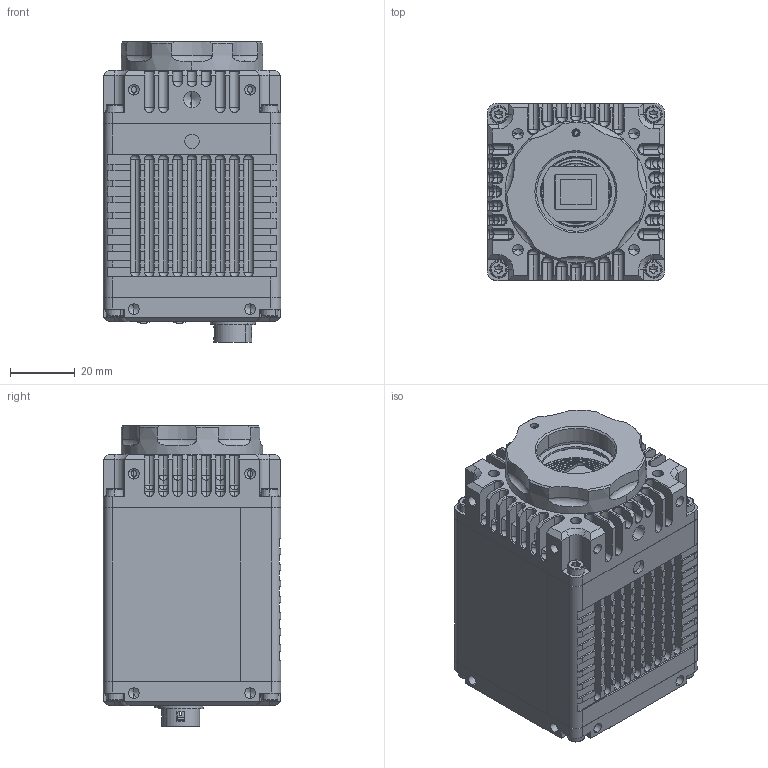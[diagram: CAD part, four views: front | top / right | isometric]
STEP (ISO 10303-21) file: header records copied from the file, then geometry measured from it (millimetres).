
FILE_DESCRIPTION (( 'STEP AP214' ), '1' );
FILE_NAME ('4068030_Goldeye G-033 SWIR TEC1.STEP', '2025-03-14T09:24:45', ( '' ), ( '' ), 'SwSTEP 2.0', 'SolidWorks 2023', '' );
FILE_SCHEMA (( 'AUTOMOTIVE_DESIGN' ));
Length unit declared in the file: millimetre
Products named in the file (1): 4068030_Goldeye G-033 SWIR TEC1
Bounding box: 55.01 x 55 x 93.17 mm (x, y, z)
Surface area: 78786.1 mm2 (no closed solid volume)
Topology: 0 solids, 49 shells, 3648 faces, 9796 edges, 6158 vertices
Faces by surface type: plane 1680, cylinder 1164, bspline 385, cone 259, sphere 98, torus 62
Entity records: 164545 total; most frequent: CARTESIAN_POINT 35278, ORIENTED_EDGE 19144, DIRECTION 17433, EDGE_CURVE 9572, VERTEX_POINT 6144, LINE 6031, VECTOR 6031, AXIS2_PLACEMENT_3D 5701
